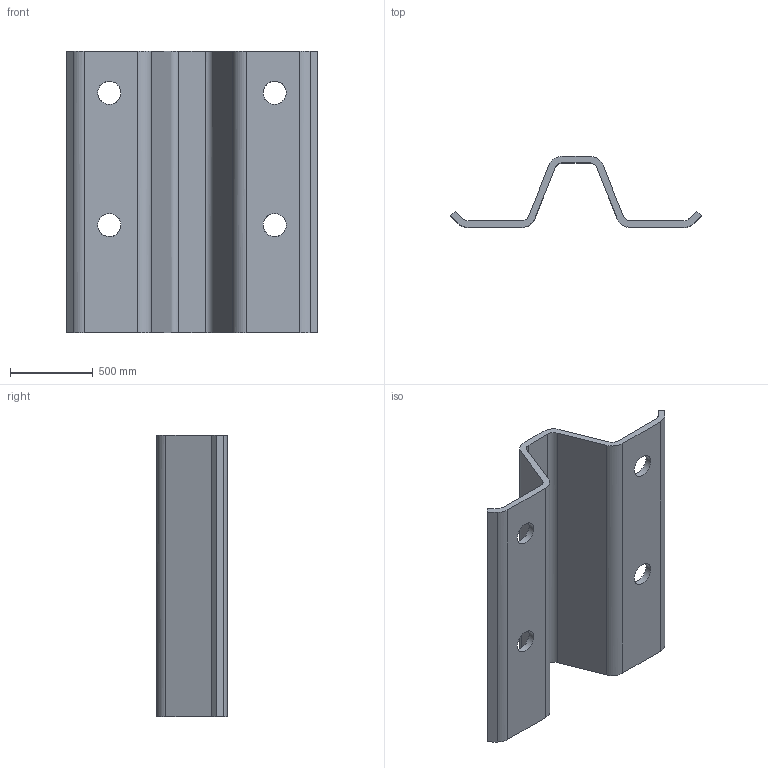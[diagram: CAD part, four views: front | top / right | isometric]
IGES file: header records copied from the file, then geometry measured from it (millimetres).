
Global section: file name: ZC200; native system: Autodesk RealDWG; preprocessor: Autodesk Translation Framework DWG producer (atf_dwg_producer); organization: unknown; date: 20241104.112518; units: centimetre
Bounding box: 1517.2 x 430 x 1700 mm (x, y, z)
Volume: 134776849.6 mm3; surface area: 7106729 mm2
Topology: 1 solids, 1 shells, 34 faces, 104 edges, 72 vertices
Faces by surface type: bspline 34
